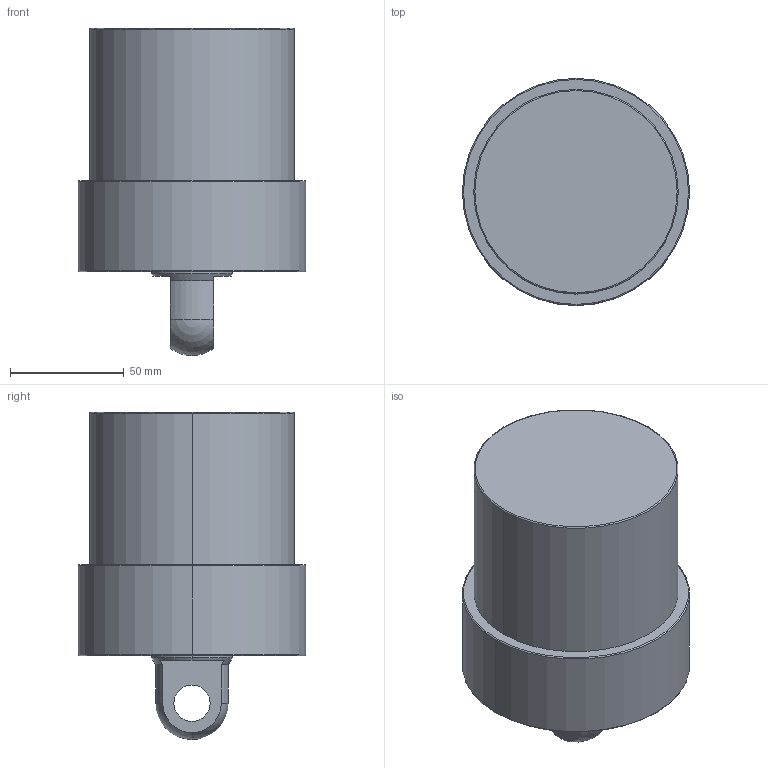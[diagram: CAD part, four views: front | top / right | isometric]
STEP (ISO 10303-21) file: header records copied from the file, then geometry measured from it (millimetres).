
FILE_DESCRIPTION (( 'STEP AP203' ), '1' );
FILE_NAME ('CLLU-090CP-045.STEP', '2020-01-13T03:25:00', ( '' ), ( '' ), 'SwSTEP 2.0', 'SolidWorks 2015', '' );
FILE_SCHEMA (( 'CONFIG_CONTROL_DESIGN' ));
Length unit declared in the file: millimetre
Products named in the file (1): CLLU-090CP-045
Bounding box: 100 x 100 x 144 mm (x, y, z)
Volume: 750078.7 mm3; surface area: 53078.7 mm2
Topology: 1 solids, 1 shells, 57 faces, 134 edges, 77 vertices
Faces by surface type: cylinder 22, cone 18, plane 9, torus 6, sphere 2
Entity records: 1643 total; most frequent: DIRECTION 308, CARTESIAN_POINT 267, ORIENTED_EDGE 244, AXIS2_PLACEMENT_3D 132, EDGE_CURVE 122, VERTEX_POINT 75, CIRCLE 74, EDGE_LOOP 67
